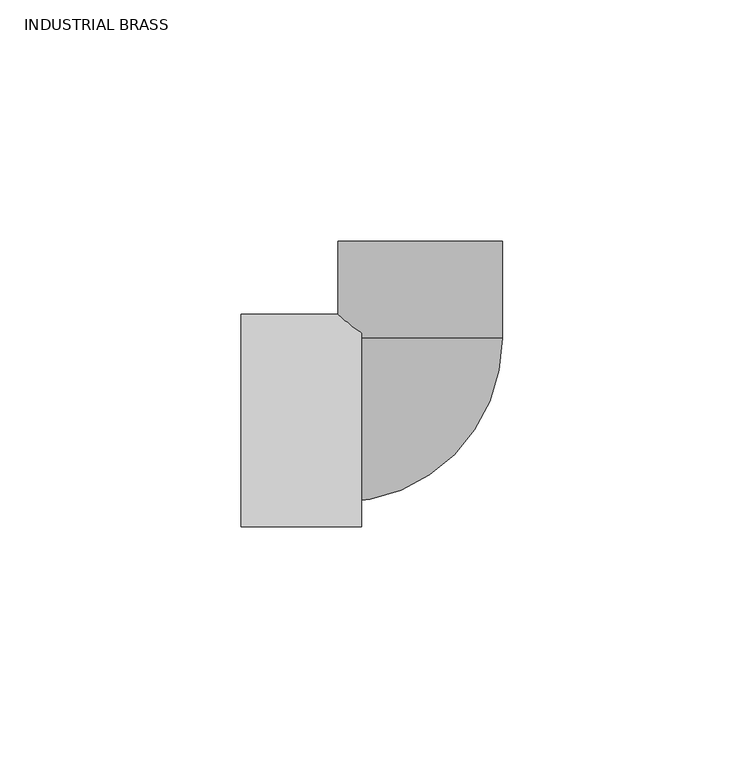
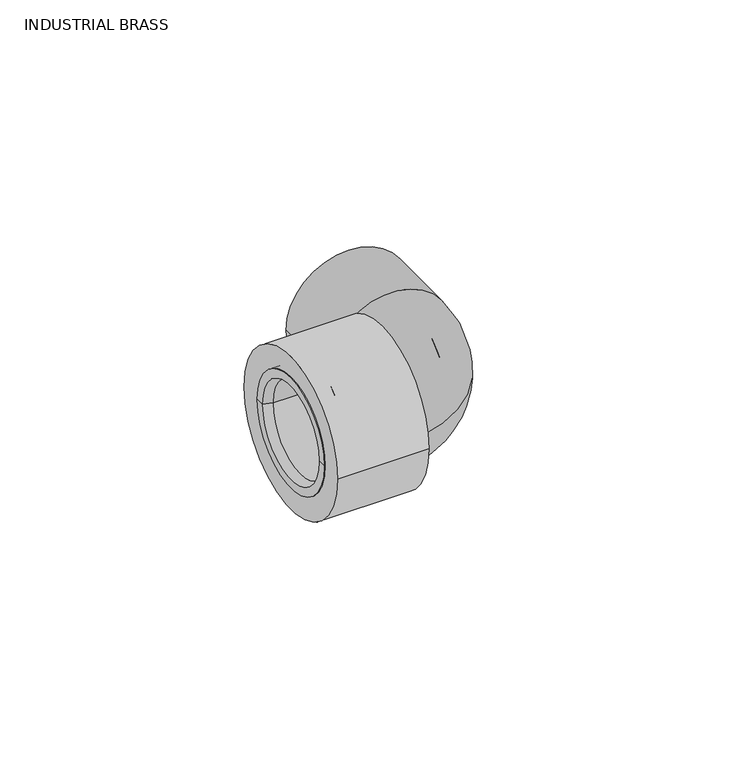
"""IFC4 building model written with IfcOpenShell, lengths in millimetres: valve geometry, Aquatherm - Elbow Transition PPR to F NPT : INDUSTRIAL BRASS."""

from ifc_helpers import new_model, si_unit, point, frame, origin, origin_2d, place, context, project, spatial, polyline, circle_curve, ellipse_curve, trimmed, segment, composite_curve, outline, extrude, source, transform, mapped, element, save
from ifc_brep_helpers import plane_surface, cylinder_surface, revolved_surface, advanced_brep


def industrial_brass_3ec02618(model_context):
    return source(origin(), model_context, "Body", "SolidModel", [
        advanced_brep(
        [(-24.384, -12.7, 0.0), (-24.384, 12.7, 0.0), (-34.5043125, 12.7, 0.0), (-34.5043125, -12.7, 0.0), (-24.384, -13.49375, 0.0), (-24.384, 13.49375, 0.0), (-21.209, -13.49375, 0.0), (-21.209, 13.49375, 0.0), (-21.209, -9.525, 0.0), (-21.209, 9.525, 0.0), (-18.034, -9.525, 0.0), (-18.034, 9.525, 0.0), (-18.034, -15.875, 0.0), (-18.034, 15.875, 0.0), (-37.084, -15.875, 0.0), (-37.084, 15.875, 0.0), (-37.084, -13.49375, 0.0), (-37.084, 13.49375, 0.0)],
        [
            (0, 1, circle_curve(frame((-24.384, 0.0, 0.0), z_axis=(1.0, 0.0, 0.0), x_axis=(0.0, 1.0, 0.0)), 12.7)),
            (1, 2),
            (2, 3, circle_curve(frame((-34.5043125, 0.0, 0.0), z_axis=(-1.0, 0.0, 0.0), x_axis=(0.0, 1.0, 0.0)), 12.7)),
            (3, 0),
            (1, 0, circle_curve(frame((-24.384, 0.0, 0.0), z_axis=(1.0, 0.0, 0.0), x_axis=(0.0, 1.0, 0.0)), 12.7)),
            (3, 2, circle_curve(frame((-34.5043125, 0.0, 0.0), z_axis=(-1.0, 0.0, 0.0), x_axis=(0.0, 1.0, 0.0)), 12.7)),
            (4, 5, circle_curve(frame((-24.384, 0.0, 0.0), z_axis=(1.0, 0.0, 0.0), x_axis=(0.0, 1.0, 0.0)), 13.49375)),
            (5, 1),
            (0, 4),
            (5, 4, circle_curve(frame((-24.384, 0.0, 0.0), z_axis=(1.0, 0.0, 0.0), x_axis=(0.0, 1.0, 0.0)), 13.49375)),
            (6, 7, circle_curve(frame((-21.209, 0.0, 0.0), z_axis=(1.0, 0.0, 0.0), x_axis=(0.0, 1.0, 0.0)), 13.49375)),
            (7, 5),
            (4, 6),
            (7, 6, circle_curve(frame((-21.209, 0.0, 0.0), z_axis=(1.0, 0.0, 0.0), x_axis=(0.0, 1.0, 0.0)), 13.49375)),
            (8, 9, circle_curve(frame((-21.209, 0.0, 0.0), z_axis=(1.0, 0.0, 0.0), x_axis=(0.0, 1.0, 0.0)), 9.525)),
            (9, 7),
            (6, 8),
            (9, 8, circle_curve(frame((-21.209, 0.0, 0.0), z_axis=(1.0, 0.0, 0.0), x_axis=(0.0, 1.0, 0.0)), 9.525)),
            (10, 11, circle_curve(frame((-18.034, 0.0, 0.0), z_axis=(1.0, 0.0, 0.0), x_axis=(0.0, 1.0, 0.0)), 9.525)),
            (11, 9),
            (8, 10),
            (11, 10, circle_curve(frame((-18.034, 0.0, 0.0), z_axis=(1.0, 0.0, 0.0), x_axis=(0.0, 1.0, 0.0)), 9.525)),
            (12, 13, circle_curve(frame((-18.034, 0.0, 0.0), z_axis=(1.0, 0.0, 0.0), x_axis=(0.0, 1.0, 0.0)), 15.875)),
            (13, 11),
            (10, 12),
            (13, 12, circle_curve(frame((-18.034, 0.0, 0.0), z_axis=(1.0, 0.0, 0.0), x_axis=(0.0, 1.0, 0.0)), 15.875)),
            (14, 15, circle_curve(frame((-37.084, 0.0, 0.0), z_axis=(1.0, 0.0, 0.0), x_axis=(0.0, 1.0, 0.0)), 15.875)),
            (15, 13),
            (12, 14),
            (15, 14, circle_curve(frame((-37.084, 0.0, 0.0), z_axis=(1.0, 0.0, 0.0), x_axis=(0.0, 1.0, 0.0)), 15.875)),
            (16, 17, circle_curve(frame((-37.084, 0.0, 0.0), z_axis=(1.0, 0.0, 0.0), x_axis=(0.0, 1.0, 0.0)), 13.49375)),
            (17, 15),
            (14, 16),
            (17, 16, circle_curve(frame((-37.084, 0.0, 0.0), z_axis=(1.0, 0.0, 0.0), x_axis=(0.0, 1.0, 0.0)), 13.49375)),
            (2, 17),
            (16, 3),
        ],
        [
            revolved_surface(polyline([(-34.5043125, 12.7, 0.0), (-24.384, 12.7, 0.0)]), (-38.9172251, 0.0, 0.0), (-1.0, 0.0, 0.0)),
            plane_surface(frame((-24.384, 0.0, 0.0), z_axis=(1.0, 0.0, 0.0), x_axis=(0.0, 1.0, 0.0))),
            revolved_surface(polyline([(-24.384, 13.49375, 0.0), (-21.209, 13.49375, 0.0)]), (-38.9172251, 0.0, 0.0), (-1.0, 0.0, 0.0)),
            plane_surface(frame((-21.209, 0.0, 0.0), z_axis=(-1.0, 0.0, 0.0), x_axis=(0.0, 1.0, 0.0))),
            revolved_surface(polyline([(-21.209, 9.525, 0.0), (-18.034, 9.525, 0.0)]), (-38.9172251, 0.0, 0.0), (-1.0, 0.0, 0.0)),
            plane_surface(frame((-18.034, 0.0, 0.0), z_axis=(1.0, 0.0, 0.0), x_axis=(0.0, 1.0, 0.0))),
            cylinder_surface(frame((-38.9172251, 0.0, 0.0), z_axis=(-1.0, 0.0, 0.0), x_axis=(0.0, 1.0, 0.0)), 15.875),
            plane_surface(frame((-37.084, 0.0, 0.0), z_axis=(-1.0, 0.0, 0.0), x_axis=(0.0, 1.0, 0.0))),
            revolved_surface(polyline([(-37.084, 13.49375, 0.0), (-34.5043125, 12.7, 0.0)]), (-38.9172251, 0.0, 0.0), (-1.0, 0.0, 0.0)),
        ],
        [
            (0, [[1, 2, 3, 4]]),
            (0, [[5, -4, 6, -2]]),
            (1, [[7, 8, -1, 9]]),
            (1, [[10, -9, -5, -8]]),
            (2, [[11, 12, -7, 13]]),
            (2, [[14, -13, -10, -12]]),
            (3, [[15, 16, -11, 17]]),
            (3, [[18, -17, -14, -16]]),
            (4, [[19, 20, -15, 21]]),
            (4, [[22, -21, -18, -20]]),
            (5, [[23, 24, -19, 25]]),
            (5, [[26, -25, -22, -24]]),
            (6, [[27, 28, -23, 29]]),
            (6, [[30, -29, -26, -28]]),
            (7, [[31, 32, -27, 33]]),
            (7, [[34, -33, -30, -32]]),
            (8, [[-3, 35, -31, 36]]),
            (8, [[-6, -36, -34, -35]]),
        ],
    ),
        advanced_brep(
        [(17.018, 17.018, 0.0), (-17.018, 17.018, 0.0), (9.525, 17.018, 0.0), (-9.525, 17.018, 0.0), (-17.018, -17.018, 0.0), (-17.018, -9.525, 0.0), (-17.018, 9.525, 0.0)],
        [
            (0, 1, circle_curve(frame((0.0, 17.018, 0.0), z_axis=(0.0, 1.0, 0.0), x_axis=(-1.0, 0.0, 0.0)), 17.018)),
            (1, 0, circle_curve(frame((0.0, 17.018, 0.0), z_axis=(0.0, 1.0, 0.0), x_axis=(-1.0, 0.0, 0.0)), 17.018)),
            (2, 3, circle_curve(frame((0.0, 17.018, 0.0), z_axis=(0.0, -1.0, 0.0), x_axis=(-1.0, 0.0, 0.0)), 9.525)),
            (3, 2, circle_curve(frame((0.0, 17.018, 0.0), z_axis=(0.0, -1.0, 0.0), x_axis=(-1.0, 0.0, 0.0)), 9.525)),
            (4, 1, circle_curve(frame((-17.018, 0.0, 0.0), z_axis=(-1.0, 0.0, 0.0), x_axis=(0.0, 1.0, 0.0)), 17.018)),
            (1, 4, circle_curve(frame((-17.018, 0.0, 0.0), z_axis=(-1.0, 0.0, 0.0), x_axis=(0.0, 1.0, 0.0)), 17.018)),
            (5, 6, circle_curve(frame((-17.018, 0.0, 0.0), z_axis=(1.0, 0.0, 0.0), x_axis=(0.0, 1.0, 0.0)), 9.525)),
            (6, 5, circle_curve(frame((-17.018, 0.0, 0.0), z_axis=(1.0, 0.0, 0.0), x_axis=(0.0, 1.0, 0.0)), 9.525)),
            (0, 4, circle_curve(frame((-17.018, 17.018, 0.0), z_axis=(0.0, 0.0, -1.0), x_axis=(1.0, 0.0, 0.0)), 34.036)),
            (6, 3, circle_curve(frame((-17.018, 17.018, 0.0), z_axis=(0.0, 0.0, 1.0), x_axis=(1.0, 0.0, 0.0)), 7.493)),
            (2, 5, circle_curve(frame((-17.018, 17.018, 0.0), z_axis=(0.0, 0.0, -1.0), x_axis=(1.0, 0.0, 0.0)), 26.543)),
        ],
        [
            plane_surface(frame((-17.018, 17.018, 41.9103543), z_axis=(0.0, 1.0, 0.0), x_axis=(1.0, 0.0, 0.0))),
            plane_surface(frame((-17.018, 17.018, 41.9103543), z_axis=(-1.0, 0.0, 0.0), x_axis=(0.0, -1.0, 0.0))),
            revolved_surface(trimmed(ellipse_curve(frame((0.0, 17.018, 0.0), z_axis=(0.0, 1.0, 0.0), x_axis=(-1.0, 0.0, 0.0)), 17.018, 17.018), [point((17.018, 17.018, 0.0))], [point((-17.018, 17.018, 0.0))], True, "CARTESIAN"), (-17.018, 17.018, 41.9103543), (0.0, 0.0, -1.0)),
            revolved_surface(trimmed(ellipse_curve(frame((0.0, 17.018, 0.0), z_axis=(0.0, 1.0, 0.0), x_axis=(-1.0, 0.0, 0.0)), 17.018, 17.018), [point((-17.018, 17.018, 0.0))], [point((17.018, 17.018, 0.0))], True, "CARTESIAN"), (-17.018, 17.018, 41.9103543), (0.0, 0.0, -1.0)),
            revolved_surface(trimmed(ellipse_curve(frame((0.0, 17.018, 0.0), z_axis=(0.0, -1.0, 0.0), x_axis=(-1.0, 0.0, 0.0)), 9.525, 9.525), [point((9.525, 17.018, 0.0))], [point((-9.525, 17.018, 0.0))], True, "CARTESIAN"), (-17.018, 17.018, 41.9103543), (0.0, 0.0, -1.0)),
            revolved_surface(trimmed(ellipse_curve(frame((0.0, 17.018, 0.0), z_axis=(0.0, -1.0, 0.0), x_axis=(-1.0, 0.0, 0.0)), 9.525, 9.525), [point((-9.525, 17.018, 0.0))], [point((9.525, 17.018, 0.0))], True, "CARTESIAN"), (-17.018, 17.018, 41.9103543), (0.0, 0.0, -1.0)),
        ],
        [
            (0, [[1, 2], [3, 4]]),
            (1, [[5, 6], [7, 8]]),
            (2, [[-1, 9, -6]]),
            (3, [[-9, -2, -5]]),
            (4, [[10, -3, 11, -8]]),
            (5, [[-11, -4, -10, -7]]),
        ],
    ),
        extrude(outline(composite_curve([segment(trimmed(circle_curve(origin_2d(), 17.018), [point((0.0, 17.018))], [point((0.0, -17.018))], False, "CARTESIAN"), True, "CONTINUOUS"), segment(trimmed(circle_curve(origin_2d(), 17.018), [point((0.0, -17.018))], [point((0.0, 17.018))], False, "CARTESIAN"), True, "CONTINUOUS")], self_intersect=False), holes=[composite_curve([segment(trimmed(circle_curve(origin_2d(), 12.446), [point((0.0, 12.446))], [point((0.0, -12.446))], True, "CARTESIAN"), True, "CONTINUOUS"), segment(trimmed(circle_curve(origin_2d(), 12.446), [point((0.0, -12.446))], [point((0.0, 12.446))], True, "CARTESIAN"), True, "CONTINUOUS")], self_intersect=False)]), frame((0.0, 17.018, 0.0), z_axis=(0.0, 1.0, 0.0), x_axis=(0.0, 0.0, 1.0)), (0.0, 0.0, 1.0), 20.066),
        extrude(outline(composite_curve([segment(trimmed(circle_curve(origin_2d(), 21.971), [point((-21.971, 0.0))], [point((21.971, 0.0))], False, "CARTESIAN"), True, "CONTINUOUS"), segment(trimmed(circle_curve(origin_2d(), 21.971), [point((21.971, 0.0))], [point((-21.971, 0.0))], False, "CARTESIAN"), True, "CONTINUOUS")], self_intersect=False), holes=[composite_curve([segment(trimmed(circle_curve(origin_2d(), 15.875), [point((-15.875, 0.0))], [point((15.875, 0.0))], True, "CARTESIAN"), True, "CONTINUOUS"), segment(trimmed(circle_curve(origin_2d(), 15.875), [point((15.875, 0.0))], [point((-15.875, 0.0))], True, "CARTESIAN"), True, "CONTINUOUS")], self_intersect=False)]), frame((-37.084, 0.0, 0.0), z_axis=(1.0, 0.0, 0.0), x_axis=(0.0, 1.0, 0.0)), (0.0, 0.0, 1.0), 24.892),
    ])


if __name__ == "__main__":
    model = new_model("IFC4")
    model_context = context("Model", 3, world=origin())
    ifc_project = project(units=[si_unit("LENGTHUNIT", "METRE", prefix="MILLI")], contexts=[model_context])
    site = spatial("IfcSite", under=ifc_project)
    building = spatial("IfcBuilding", under=site)
    placement = place(None, origin())
    industrial_brass_shape = industrial_brass_3ec02618(model_context)
    element("IfcValve", 1, ObjectType="Aquatherm - Elbow Transition PPR to F NPT : INDUSTRIAL BRASS", at=placement, inside=building, context=model_context, shape_type="MappedRepresentation", body=[
        mapped(industrial_brass_shape, transform((0.0, 0.0, 0.0), x_axis=(1.0, 0.0, 0.0), y_axis=(0.0, 1.0, 0.0), z_axis=(0.0, 0.0, 1.0))),
    ])
    save(model, "model.ifc")
